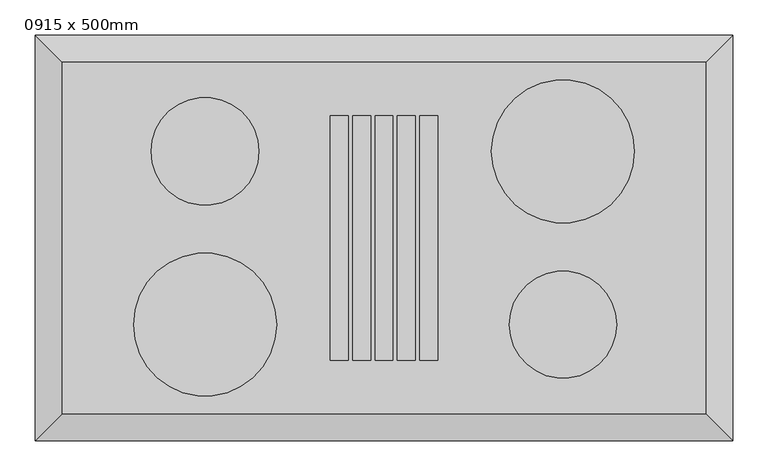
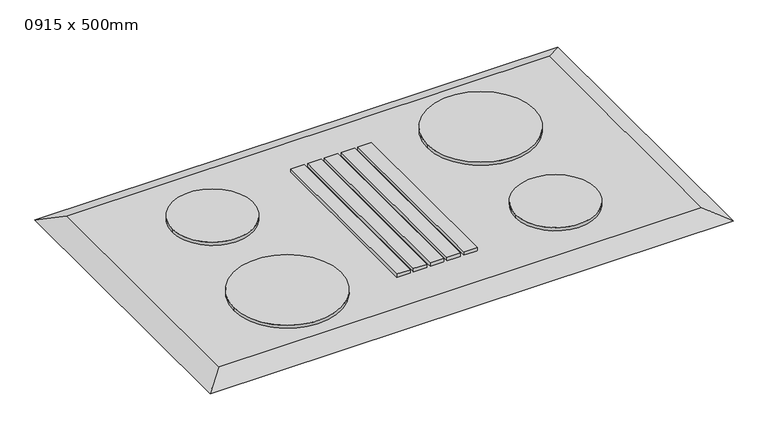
"""IFC4 building model written with IfcOpenShell, lengths in millimetres: proxy geometry, 炉灶面 - 4 套 : 0915 x 500mm."""

import ifcopenshell
import ifcopenshell.guid

model = None  # the IFC model being written
_history = None  # IfcOwnerHistory: only IFC2X3 demands one
_inside = {}  # id of a spatial element -> (the spatial element, [elements in it])
_under = {}  # id of a project, library or spatial element -> (it, [spatial elements below it])
_declared = {}  # id of a project -> (the project, [libraries it declares])
_typed = {}  # id of a type object -> (the type object, [elements of that type])
_made_of = {}  # id of a material, layer set ... -> (it, [elements and type objects made of it])


def new_model(schema):
    """Start an empty IFC model of exactly this schema.

    Asked for "IFC4X3", IfcOpenShell would pick the latest addendum, in which some entities
    have other attributes; the version numbers below select the first issue.
    IFC2X3 requires an IfcOwnerHistory on every rooted entity: one is made here for all.
    """
    global model, _history
    if schema == "IFC4X3":
        model = ifcopenshell.file(schema_version=(4, 3, 0, 0))
    else:
        model = ifcopenshell.file(schema=schema)
    _inside.clear()
    _under.clear()
    _declared.clear()
    _typed.clear()
    _made_of.clear()
    _history = None
    if model.schema == "IFC2X3":
        org = make("IfcOrganization", Name="unknown")
        user = make(
            "IfcPersonAndOrganization",
            ThePerson=make("IfcPerson", FamilyName="unknown"),
            TheOrganization=org,
        )
        app = make(
            "IfcApplication",
            ApplicationDeveloper=org,
            Version="unknown",
            ApplicationFullName="unknown",
            ApplicationIdentifier="unknown",
        )
        _history = make(
            "IfcOwnerHistory",
            OwningUser=user,
            OwningApplication=app,
            ChangeAction="ADDED",
            CreationDate=0,
        )
    return model


def make(cls, **values):
    """One entity of the class cls with the attributes given. An attribute that is None is left unset."""
    return model.create_entity(
        cls, **{name: value for name, value in values.items() if value is not None}
    )


def rooted(cls, **values):
    """An entity with a GlobalId (a new one), such as an element, a storey or a relation."""
    return make(cls, GlobalId=ifcopenshell.guid.new(), OwnerHistory=_history, **values)


def si_unit(unit_type, name, prefix=None):
    """IfcSIUnit, for example si_unit("LENGTHUNIT", "METRE", prefix="MILLI")."""
    return make("IfcSIUnit", UnitType=unit_type, Prefix=prefix, Name=name)


def assignment(units):
    """IfcUnitAssignment: the units of a project."""
    return None if units is None else make("IfcUnitAssignment", Units=units)


def point(xyz):
    """IfcCartesianPoint."""
    return None if xyz is None else make("IfcCartesianPoint", Coordinates=xyz)


def direction(xyz):
    """IfcDirection."""
    return None if xyz is None else make("IfcDirection", DirectionRatios=xyz)


def frame(location, z_axis=None, x_axis=None):
    """IfcAxis2Placement3D, a coordinate frame: its origin and axes. An axis left out is left unset."""
    return make(
        "IfcAxis2Placement3D",
        Location=point(location),
        Axis=direction(z_axis),
        RefDirection=direction(x_axis),
    )


def frame_2d(location, x_axis=None):
    """IfcAxis2Placement2D, a coordinate frame in the plane: its origin and x axis."""
    return make(
        "IfcAxis2Placement2D", Location=point(location), RefDirection=direction(x_axis)
    )


def origin():
    """The frame at (0, 0, 0) with its axes left unset."""
    return frame((0.0, 0.0, 0.0))


def place(relative_to, where):
    """IfcLocalPlacement: puts the frame where relative to a parent placement (None: the world)."""
    return make(
        "IfcLocalPlacement", PlacementRelTo=relative_to, RelativePlacement=where
    )


def context(
    kind, dimensions, precision=None, world=None, true_north=None, identifier=None
):
    """IfcGeometricRepresentationContext, for example the 3D "Model" context."""
    return make(
        "IfcGeometricRepresentationContext",
        ContextIdentifier=identifier,
        ContextType=kind,
        CoordinateSpaceDimension=dimensions,
        Precision=precision,
        WorldCoordinateSystem=world,
        TrueNorth=true_north,
    )


def project(units=None, contexts=None):
    """IfcProject with its units and contexts."""
    return rooted(
        "IfcProject",
        Name="project",
        RepresentationContexts=contexts,
        UnitsInContext=assignment(units),
    )


def spatial(cls, under=None, at=None, **own):
    """A site, building, storey or space (cls), placed at a placement, below another one or the project."""
    s = rooted(cls, ObjectPlacement=at, **own)
    if under is not None:
        _under.setdefault(under.id(), (under, []))[1].append(s)
    return s


def polyline(points):
    """IfcPolyline through the points."""
    return make("IfcPolyline", Points=[point(p) for p in points])


def circle_curve(where, radius):
    """IfcCircle in the frame where."""
    return make("IfcCircle", Position=where, Radius=radius)


def trimmed(basis, trim1, trim2, sense, master):
    """IfcTrimmedCurve: the piece of a basis curve between two trims."""
    return make(
        "IfcTrimmedCurve",
        BasisCurve=basis,
        Trim1=trim1,
        Trim2=trim2,
        SenseAgreement=sense,
        MasterRepresentation=master,
    )


def segment(curve, same_sense, transition):
    """IfcCompositeCurveSegment."""
    return make(
        "IfcCompositeCurveSegment",
        Transition=transition,
        SameSense=same_sense,
        ParentCurve=curve,
    )


def composite_curve(segments, self_intersect=None):
    """IfcCompositeCurve: segments joined end to end."""
    return make("IfcCompositeCurve", Segments=segments, SelfIntersect=self_intersect)


def outline(outer, holes=None, kind="AREA"):
    """IfcArbitraryClosedProfileDef: a profile drawn as a closed curve; with holes, ...WithVoids."""
    if holes is None:
        return make("IfcArbitraryClosedProfileDef", ProfileType=kind, OuterCurve=outer)
    return make(
        "IfcArbitraryProfileDefWithVoids",
        ProfileType=kind,
        OuterCurve=outer,
        InnerCurves=holes,
    )


def extrude(swept, where, along, depth):
    """IfcExtrudedAreaSolid: the profile swept, set in the frame where, extruded along a direction by depth."""
    return make(
        "IfcExtrudedAreaSolid",
        SweptArea=swept,
        Position=where,
        ExtrudedDirection=direction(along),
        Depth=depth,
    )


def faces_of(points, faces, orient=None, outer=None):
    """IfcFace entities. A face is a list of loops; a loop is a list of indices into points, from 0.

    orient and outer hold one flag for each loop. By default every Orientation is true, the
    first loop of a face is its IfcFaceOuterBound and the others are IfcFaceBound.
    """
    made = []
    for i, loops in enumerate(faces):
        bounds = []
        for j, loop in enumerate(loops):
            is_outer = j == 0 if outer is None else outer[i][j]
            bounds.append(
                make(
                    "IfcFaceOuterBound" if is_outer else "IfcFaceBound",
                    Bound=make("IfcPolyLoop", Polygon=[points[k] for k in loop]),
                    Orientation=True if orient is None else orient[i][j],
                )
            )
        made.append(make("IfcFace", Bounds=bounds))
    return made


def faceted_brep(points, faces, orient=None, outer=None, voids=None):
    """IfcFacetedBrep: a solid bounded by flat faces; with voids (closed shells), ...WithVoids."""
    shared = [point(p) for p in points]
    hull = make("IfcClosedShell", CfsFaces=faces_of(shared, faces, orient, outer))
    if voids is None:
        return make("IfcFacetedBrep", Outer=hull)
    return make(
        "IfcFacetedBrepWithVoids",
        Outer=hull,
        Voids=[
            make(cls, CfsFaces=faces_of(shared, fs, o, b)) for cls, fs, o, b in voids
        ],
    )


def shape(context_of_items, identifier, shape_type, items):
    """IfcShapeRepresentation: the items that make up one representation, for example the "Body"."""
    return make(
        "IfcShapeRepresentation",
        ContextOfItems=context_of_items,
        RepresentationIdentifier=identifier,
        RepresentationType=shape_type,
        Items=items,
    )


def source(mapping_origin, context_of_items, identifier, shape_type, items):
    """IfcRepresentationMap: a shape defined once, which mapped items show again and again."""
    return make(
        "IfcRepresentationMap",
        MappingOrigin=mapping_origin,
        MappedRepresentation=shape(context_of_items, identifier, shape_type, items),
    )


def transform(
    local_origin,
    x_axis=None,
    y_axis=None,
    z_axis=None,
    scale=None,
    scale2=None,
    scale3=None,
    uniform=True,
):
    """IfcCartesianTransformationOperator3D, or its non-uniform kind. x_axis, y_axis, z_axis: its Axis1, 2, 3."""
    if uniform:
        return make(
            "IfcCartesianTransformationOperator3D",
            Axis1=direction(x_axis),
            Axis2=direction(y_axis),
            LocalOrigin=point(local_origin),
            Scale=scale,
            Axis3=direction(z_axis),
        )
    return make(
        "IfcCartesianTransformationOperator3DnonUniform",
        Axis1=direction(x_axis),
        Axis2=direction(y_axis),
        LocalOrigin=point(local_origin),
        Scale=scale,
        Axis3=direction(z_axis),
        Scale2=scale2,
        Scale3=scale3,
    )


def mapped(mapping_source, mapping_target):
    """IfcMappedItem: shows the shape of a source again, moved by a transform."""
    return make(
        "IfcMappedItem", MappingSource=mapping_source, MappingTarget=mapping_target
    )


def made_of(thing, what):
    """Note that an element or type object is made of a material, layer set ...; save() writes the relation."""
    if what is not None:
        _made_of.setdefault(what.id(), (what, []))[1].append(thing)
    return thing


def element(
    cls,
    number,
    at=None,
    inside=None,
    cuts=None,
    type_object=None,
    material=None,
    context=None,
    identifier="Body",
    shape_type=None,
    held_by="IfcProductDefinitionShape",
    body=None,
    shapes=None,
    **own,
):
    """One element of the class cls, such as IfcWall. Its Tag is "e" and its number.

    at: its placement. inside: the storey or other place that contains it. cuts: it is an
    opening in that element (IfcRelVoidsElement). A single representation is given by context,
    identifier, shape_type and body (its items); several are given by shapes. held_by: the class
    of the entity that holds the representations. save() writes the other relations.
    """
    e = rooted(cls, Tag="e%d" % number, ObjectPlacement=at, **own)
    if body is not None:
        shapes = [shape(context, identifier, shape_type, body)]
    if shapes is not None:
        e.Representation = make(held_by, Representations=shapes)
    if inside is not None:
        _inside.setdefault(inside.id(), (inside, []))[1].append(e)
    if cuts is not None:
        rooted(
            "IfcRelVoidsElement", RelatingBuildingElement=cuts, RelatedOpeningElement=e
        )
    if type_object is not None:
        _typed.setdefault(type_object.id(), (type_object, []))[1].append(e)
    return made_of(e, material)


def aggregate(whole, parts):
    """IfcRelAggregates: a whole, such as a stair, and the parts it consists of."""
    return rooted("IfcRelAggregates", RelatingObject=whole, RelatedObjects=parts)


def save(model, path):
    """Write the relations noted so far, then the file.

    IfcRelAggregates (storeys below a building ...), IfcRelContainedInSpatialStructure (elements
    in a storey), IfcRelDefinesByType, IfcRelAssociatesMaterial and IfcRelDeclares: one each for
    every whole, place, type object, material and project.
    """
    for whole, parts in _under.values():
        aggregate(whole, parts)
    for where, things in _inside.values():
        rooted(
            "IfcRelContainedInSpatialStructure",
            RelatedElements=things,
            RelatingStructure=where,
        )
    for kind, things in _typed.values():
        rooted("IfcRelDefinesByType", RelatedObjects=things, RelatingType=kind)
    for what, things in _made_of.values():
        rooted("IfcRelAssociatesMaterial", RelatedObjects=things, RelatingMaterial=what)
    for by, libraries in _declared.values():
        rooted("IfcRelDeclares", RelatingContext=by, RelatedDefinitions=libraries)
    model.write(path)


def proxy_0915_x_500mm_bb916581(model_context):
    return source(origin(), model_context, "Body", "SolidModel", [
        extrude(outline(composite_curve([segment(trimmed(circle_curve(frame_2d((-254.3, 123.0)), 76.5869489), [point((-177.7130511, 123.0))], [point((-330.8869489, 123.0))], False, "CARTESIAN"), True, "CONTINUOUS"), segment(trimmed(circle_curve(frame_2d((-254.3, 123.0)), 76.5869489), [point((-330.8869489, 123.0))], [point((-177.7130511, 123.0))], False, "CARTESIAN"), True, "CONTINUOUS")], self_intersect=False)), frame((0.0, 0.0, 918.0), z_axis=(0.0, 0.0, 1.0), x_axis=(1.0, 0.0, 0.0)), (0.0, 0.0, 1.0), 6.35),
        extrude(outline(composite_curve([segment(trimmed(circle_curve(frame_2d((254.3, 123.0)), 101.6), [point((355.9, 123.0))], [point((152.7, 123.0))], False, "CARTESIAN"), True, "CONTINUOUS"), segment(trimmed(circle_curve(frame_2d((254.3, 123.0)), 101.6), [point((152.7, 123.0))], [point((355.9, 123.0))], False, "CARTESIAN"), True, "CONTINUOUS")], self_intersect=False)), frame((0.0, 0.0, 918.0), z_axis=(0.0, 0.0, 1.0), x_axis=(1.0, 0.0, 0.0)), (0.0, 0.0, 1.0), 6.35),
        extrude(outline(composite_curve([segment(trimmed(circle_curve(frame_2d((254.3, -123.0)), 76.2), [point((330.5, -123.0))], [point((178.1, -123.0))], False, "CARTESIAN"), True, "CONTINUOUS"), segment(trimmed(circle_curve(frame_2d((254.3, -123.0)), 76.2), [point((178.1, -123.0))], [point((330.5, -123.0))], False, "CARTESIAN"), True, "CONTINUOUS")], self_intersect=False)), frame((0.0, 0.0, 918.0), z_axis=(0.0, 0.0, 1.0), x_axis=(1.0, 0.0, 0.0)), (0.0, 0.0, 1.0), 6.35),
        extrude(outline(polyline([(-50.8, 173.8), (-50.8, -173.8), (-76.2, -173.8), (-76.2, 173.8), (-50.8, 173.8)])), frame((0.0, 0.0, 918.0), z_axis=(0.0, 0.0, 1.0), x_axis=(1.0, 0.0, 0.0)), (0.0, 0.0, 1.0), 6.35),
        extrude(outline(polyline([(-19.05, 173.8), (-19.05, -173.8), (-44.45, -173.8), (-44.45, 173.8), (-19.05, 173.8)])), frame((0.0, 0.0, 918.0), z_axis=(0.0, 0.0, 1.0), x_axis=(1.0, 0.0, 0.0)), (0.0, 0.0, 1.0), 6.35),
        extrude(outline(polyline([(12.7, 173.8), (12.7, -173.8), (-12.7, -173.8), (-12.7, 173.8), (12.7, 173.8)])), frame((0.0, 0.0, 918.0), z_axis=(0.0, 0.0, 1.0), x_axis=(1.0, 0.0, 0.0)), (0.0, 0.0, 1.0), 6.35),
        extrude(outline(polyline([(44.45, 173.8), (44.45, -173.8), (19.05, -173.8), (19.05, 173.8), (44.45, 173.8)])), frame((0.0, 0.0, 918.0), z_axis=(0.0, 0.0, 1.0), x_axis=(1.0, 0.0, 0.0)), (0.0, 0.0, 1.0), 6.35),
        extrude(outline(polyline([(76.2, 173.8), (76.2, -173.8), (50.8, -173.8), (50.8, 173.8), (76.2, 173.8)])), frame((0.0, 0.0, 918.0), z_axis=(0.0, 0.0, 1.0), x_axis=(1.0, 0.0, 0.0)), (0.0, 0.0, 1.0), 6.35),
        faceted_brep([(457.5, 250.0, 918.0), (-457.5, 250.0, 918.0), (-457.5, -250.0, 918.0), (457.5, -250.0, 918.0), (495.6, 288.1, 900.0), (495.6, -288.1, 900.0), (-495.6, -288.1, 900.0), (-495.6, 288.1, 900.0)], [[[0, 1, 2, 3]], [[4, 5, 6, 7]], [[4, 7, 1, 0]], [[7, 6, 2, 1]], [[6, 5, 3, 2]], [[5, 4, 0, 3]]]),
        extrude(outline(composite_curve([segment(trimmed(circle_curve(frame_2d((-254.3, -123.0)), 101.6), [point((-152.7, -123.0))], [point((-355.9, -123.0))], False, "CARTESIAN"), True, "CONTINUOUS"), segment(trimmed(circle_curve(frame_2d((-254.3, -123.0)), 101.6), [point((-355.9, -123.0))], [point((-152.7, -123.0))], False, "CARTESIAN"), True, "CONTINUOUS")], self_intersect=False)), frame((0.0, 0.0, 918.0), z_axis=(0.0, 0.0, 1.0), x_axis=(1.0, 0.0, 0.0)), (0.0, 0.0, 1.0), 6.35),
    ])


if __name__ == "__main__":
    model = new_model("IFC4")
    model_context = context("Model", 3, world=origin())
    ifc_project = project(units=[si_unit("LENGTHUNIT", "METRE", prefix="MILLI")], contexts=[model_context])
    site = spatial("IfcSite", under=ifc_project)
    building = spatial("IfcBuilding", under=site)
    placement = place(None, origin())
    proxy_0915_x_500mm_shape = proxy_0915_x_500mm_bb916581(model_context)
    element("IfcBuildingElementProxy", 1, Name="炉灶面 - 4 套 : 0915 x 500mm", ObjectType="炉灶面 - 4 套 : 0915 x 500mm", at=placement, inside=building, context=model_context, shape_type="MappedRepresentation", body=[
        mapped(proxy_0915_x_500mm_shape, transform((0.0, 0.0, 0.0), x_axis=(1.0, 0.0, 0.0), y_axis=(0.0, 1.0, 0.0), z_axis=(0.0, 0.0, 1.0))),
    ])
    save(model, "model.ifc")
